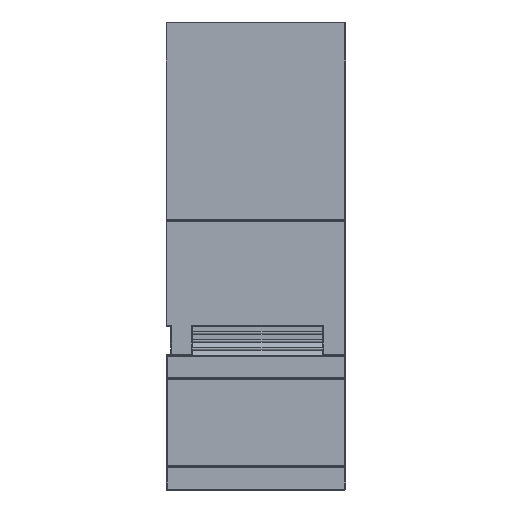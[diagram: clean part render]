
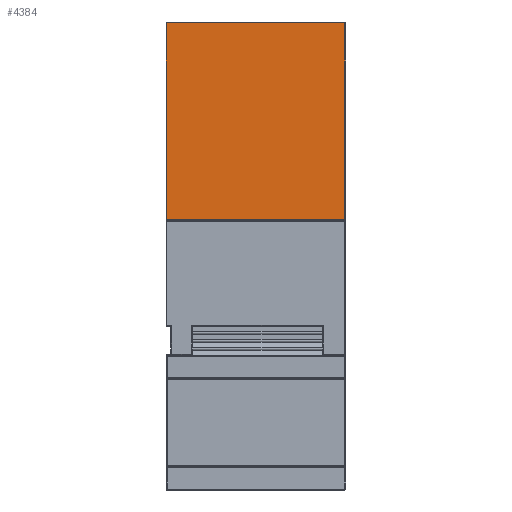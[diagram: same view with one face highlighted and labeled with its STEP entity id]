
A CAD part, left-side view. The second image highlights one B-rep face of the part: STEP entity #4384.
In plain terms, the highlighted planar face has unit normal (-1, 0, 0).
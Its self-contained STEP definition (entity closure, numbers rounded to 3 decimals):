
#4384 = ADVANCED_FACE( '', ( #9263 ), #9264, .F. );
#9263 = FACE_OUTER_BOUND( '', #14883, .T. );
#9264 = PLANE( '', #14884 );
#14883 = EDGE_LOOP( '', ( #29526, #29527, #29528, #29529 ) );
#14884 = AXIS2_PLACEMENT_3D( '', #29530, #29531, #29532 );
#29526 = ORIENTED_EDGE( '', *, *, #37361, .F. );
#29527 = ORIENTED_EDGE( '', *, *, #39724, .T. );
#29528 = ORIENTED_EDGE( '', *, *, #35884, .T. );
#29529 = ORIENTED_EDGE( '', *, *, #38890, .T. );
#29530 = CARTESIAN_POINT( '', ( -525., -620., 1615. ) );
#29531 = DIRECTION( '', ( 1., 0., 0. ) );
#29532 = DIRECTION( '', ( 0., 0., -1. ) );
#35884 = EDGE_CURVE( '', #43312, #43310, #43313, .T. );
#37361 = EDGE_CURVE( '', #45615, #45617, #45618, .T. );
#38890 = EDGE_CURVE( '', #43310, #45617, #47707, .T. );
#39724 = EDGE_CURVE( '', #45615, #43312, #48664, .T. );
#43310 = VERTEX_POINT( '', #54496 );
#43312 = VERTEX_POINT( '', #54499 );
#43313 = LINE( '', #54500, #54501 );
#45615 = VERTEX_POINT( '', #60248 );
#45617 = VERTEX_POINT( '', #60251 );
#45618 = LINE( '', #60252, #60253 );
#47707 = LINE( '', #64913, #64914 );
#48664 = LINE( '', #66624, #66625 );
#54496 = CARTESIAN_POINT( '', ( -525., 0., 1615. ) );
#54499 = CARTESIAN_POINT( '', ( -525., -617., 1615. ) );
#54500 = CARTESIAN_POINT( '', ( -525., -620., 1615. ) );
#54501 = VECTOR( '', #69433, 1000. );
#60248 = CARTESIAN_POINT( '', ( -525., -617., 935. ) );
#60251 = CARTESIAN_POINT( '', ( -525., 0., 935. ) );
#60252 = CARTESIAN_POINT( '', ( -525., -620., 935. ) );
#60253 = VECTOR( '', #70258, 1000. );
#64913 = CARTESIAN_POINT( '', ( -525., 0., 1615. ) );
#64914 = VECTOR( '', #71150, 1000. );
#66624 = CARTESIAN_POINT( '', ( -525., -617., 0. ) );
#66625 = VECTOR( '', #71691, 1000. );
#69433 = DIRECTION( '', ( 0., 1., 0. ) );
#70258 = DIRECTION( '', ( 0., 1., 0. ) );
#71150 = DIRECTION( '', ( 0., 0., -1. ) );
#71691 = DIRECTION( '', ( 0., 0., 1. ) );
